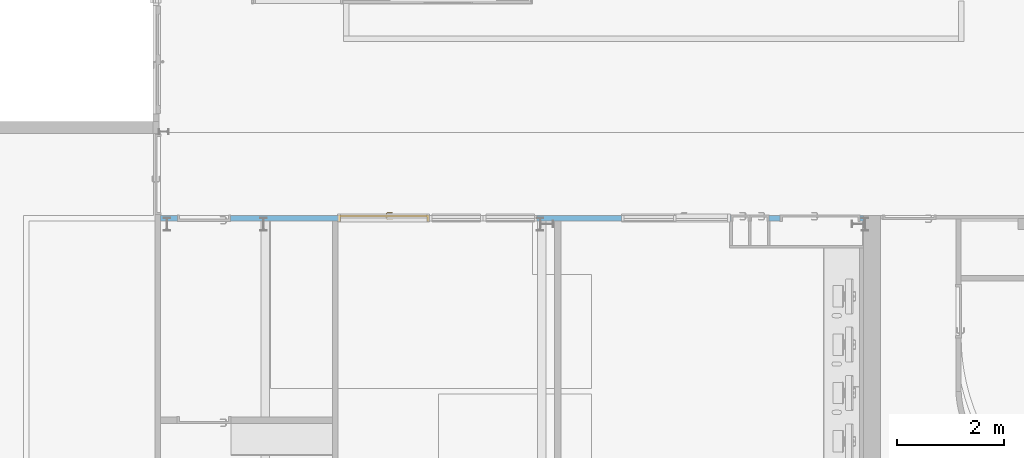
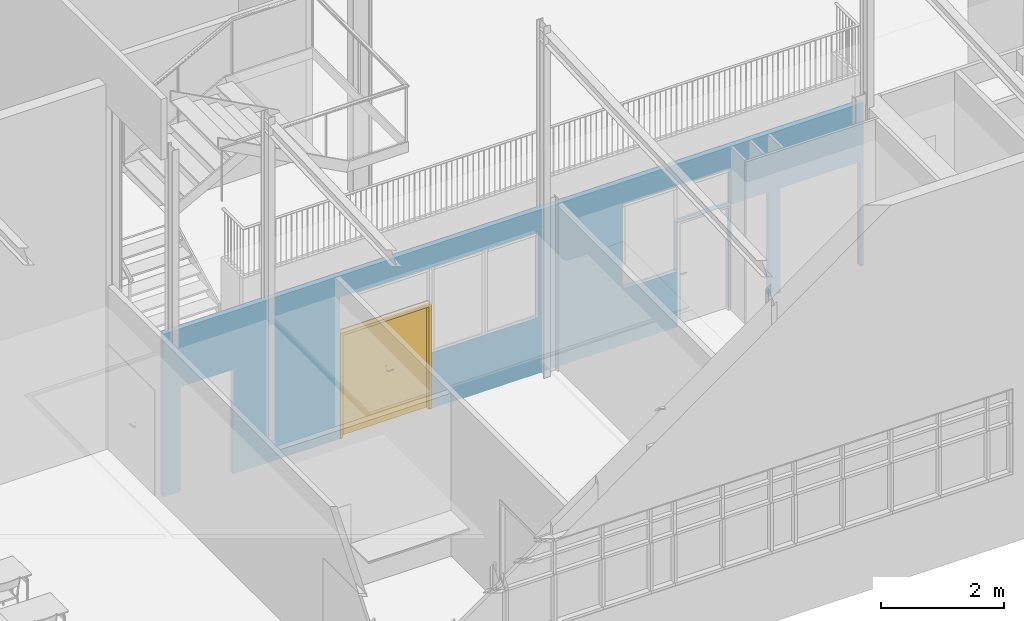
# One storey, part 81 of 137: 1 door, 10 openings, plus 1 element that does not belong to this part.
"""IFC2X3 building model written with IfcOpenShell, lengths in centimetres."""

from ifc_helpers import new_model, entity, si_unit, converted_unit, derived_unit, direction, frame, frame_2d, origin, place, context, subcontext, project, spatial, polyline, rectangle, outline, extrude, clip, bounded_halfspace, faceted_brep, source, transform, mapped, material, material_list, layer, layer_set, layer_usage, type_object, type_shapes, element, fill, save


model = new_model("IFC2X3")

# Units and contexts
model_context = context("Model", 3, precision=0.001, world=origin(), true_north=direction((6.12303176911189e-17, 1.0)))
body_context = subcontext(model_context, "Body", "Model", "MODEL_VIEW")
ifc_project = project(units=[si_unit("LENGTHUNIT", "METRE", prefix="CENTI"), si_unit("AREAUNIT", "SQUARE_METRE"), si_unit("VOLUMEUNIT", "CUBIC_METRE"), converted_unit("PLANEANGLEUNIT", "DEGREE", entity("IfcRatioMeasure", 0.0174532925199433), si_unit("PLANEANGLEUNIT", "RADIAN"), dimensions=[0, 0, 0, 0, 0, 0, 0]), si_unit("MASSUNIT", "GRAM", prefix="KILO"), si_unit("TIMEUNIT", "SECOND"), si_unit("FREQUENCYUNIT", "HERTZ"), si_unit("THERMODYNAMICTEMPERATUREUNIT", "DEGREE_CELSIUS"), derived_unit("THERMALTRANSMITTANCEUNIT", [(si_unit("MASSUNIT", "GRAM", prefix="KILO"), 1), (si_unit("THERMODYNAMICTEMPERATUREUNIT", "KELVIN"), -1), (si_unit("TIMEUNIT", "SECOND"), -3)]), derived_unit("VOLUMETRICFLOWRATEUNIT", [(si_unit("LENGTHUNIT", "METRE"), 3), (si_unit("TIMEUNIT", "SECOND"), -1)]), si_unit("ELECTRICCURRENTUNIT", "AMPERE"), si_unit("ELECTRICVOLTAGEUNIT", "VOLT"), si_unit("POWERUNIT", "WATT"), si_unit("FORCEUNIT", "NEWTON", prefix="KILO"), si_unit("ILLUMINANCEUNIT", "LUX"), si_unit("LUMINOUSFLUXUNIT", "LUMEN"), si_unit("LUMINOUSINTENSITYUNIT", "CANDELA"), derived_unit("USERDEFINED", [(si_unit("MASSUNIT", "GRAM", prefix="KILO"), -1), (si_unit("LENGTHUNIT", "METRE"), -2), (si_unit("TIMEUNIT", "SECOND"), 3), (si_unit("LUMINOUSFLUXUNIT", "LUMEN"), 1)]), derived_unit("LINEARVELOCITYUNIT", [(si_unit("LENGTHUNIT", "METRE"), 1), (si_unit("TIMEUNIT", "SECOND"), -1)]), si_unit("PRESSUREUNIT", "PASCAL"), derived_unit("USERDEFINED", [(si_unit("LENGTHUNIT", "METRE"), -2), (si_unit("MASSUNIT", "GRAM", prefix="KILO"), 1), (si_unit("TIMEUNIT", "SECOND"), -2)])], contexts=[model_context])

# Site, building, storey
site_placement = place(None, frame((8.62739174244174, -249.285249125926, 0.0)))
site = spatial("IfcSite", under=ifc_project, at=site_placement, Name="Default", CompositionType="ELEMENT")
building_placement = place(site_placement, origin())
building = spatial("IfcBuilding", under=site, at=building_placement, CompositionType="ELEMENT")
storey_placement = place(building_placement, origin())
storey = spatial("IfcBuildingStorey", under=building, at=storey_placement, Name="RDC", CompositionType="ELEMENT", Elevation=-8.82465566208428e-11)

# Wall, openings, door
ifc_material_1 = material(Name="Plâtre EXISTANT")
ifc_layer = layer(ifc_material_1, 10.0)
ifc_layer_set = layer_set([ifc_layer], Name="Mur de base:PLA EXISTANT 10")
ifc_layer_usage = layer_usage(ifc_layer_set, "AXIS2", "NEGATIVE", 5.0)
wall_type = type_object("IfcWallType", Name="Mur de base:PLA EXISTANT 10", PredefinedType="STANDARD", material=ifc_layer_set)
wall_placement = place(storey_placement, frame((2162.90482780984, 773.0, 0.0), z_axis=(0.0, 0.0, 1.0), x_axis=(-1.0, 0.0, 0.0)))
wall = element("IfcWallStandardCase", 1, at=wall_placement, inside=storey, type_object=wall_type, material=ifc_layer_usage, Name="Mur de base:PLA EXISTANT 10", ObjectType="Mur de base:PLA EXISTANT 10", context=body_context, shape_type="Clipping", body=[
    clip(extrude(rectangle(XDim=1308.9048278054, YDim=9.99999999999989, at=frame_2d((654.4524139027, -1.82076576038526e-14), x_axis=(-1.0, 0.0))), origin(), (0.0, 0.0, 1.0), 322.000000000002), bounded_halfspace(frame((0.0, -5.0, 322.0), z_axis=(0.0, 0.0, -1.0), x_axis=(1.0, 0.0, 0.0)), True, frame((0.0, -5.0, 322.0)), polyline([(0.0, 0.0), (1308.9048278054, 0.0), (1308.9048278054, 10.0), (988.9048278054, 10.0), (978.9048278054, 10.0), (574.90482780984, 10.0), (562.90482780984, 10.0), (249.0, 10.0), (244.0, 10.0), (214.0, 10.0), (209.0, 10.0), (179.0, 10.0), (174.0, 10.0), (0.0, 10.0), (0.0, 0.0)]))),
])
opening_1_placement = place(wall_placement, origin())
element("IfcOpeningElement", 2, at=opening_1_placement, cuts=wall, Name="Mur de base:PLA EXISTANT 10", ObjectType="Opening", context=body_context, shape_type="SweptSolid", body=[
    extrude(rectangle(XDim=72.9999999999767, YDim=171.0, at=frame_2d((0.0, 0.0), x_axis=(0.0, 1.0))), frame((893.500000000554, -20.2399999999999, 243.499999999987), z_axis=(0.0, 1.0, 0.0), x_axis=(-1.0, 0.0, 0.0)), (0.0, 0.0, 1.0), 40.48),
])
opening_2_placement = place(wall_placement, origin())
element("IfcOpeningElement", 3, at=opening_2_placement, cuts=wall, Name="Mur de base:PLA EXISTANT 10", ObjectType="Opening", context=body_context, shape_type="SweptSolid", body=[
    extrude(rectangle(XDim=170.0, YDim=100.0, at=frame_2d((0.0, -1.10134124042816e-13), x_axis=(1.0, 0.0))), frame((758.0, -20.2400000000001, 195.0), z_axis=(0.0, 1.0, 0.0), x_axis=(0.0, 0.0, 1.0)), (0.0, 0.0, 1.0), 40.48),
])
opening_3_placement = place(wall_placement, origin())
element("IfcOpeningElement", 4, at=opening_3_placement, cuts=wall, Name="Mur de base:PLA EXISTANT 10", ObjectType="Opening", context=body_context, shape_type="SweptSolid", body=[
    extrude(rectangle(XDim=170.0, YDim=100.0, at=frame_2d((0.0, -1.10134124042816e-13), x_axis=(1.0, 0.0))), frame((658.0, -20.2400000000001, 195.0), z_axis=(0.0, 1.0, 0.0), x_axis=(0.0, 0.0, 1.0)), (0.0, 0.0, 1.0), 40.48),
])
opening_4_placement = place(wall_placement, origin())
element("IfcOpeningElement", 5, at=opening_4_placement, cuts=wall, Name="Mur de base:PLA EXISTANT 10", ObjectType="Opening", context=body_context, shape_type="SweptSolid", body=[
    extrude(outline(polyline([(-101.666666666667, -89.3333333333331), (0.333333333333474, -89.3333333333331), (0.333333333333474, 8.66666666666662), (101.333333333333, 8.66666666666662), (101.333333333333, 80.6666666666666), (-101.666666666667, 80.6666666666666), (-101.666666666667, -89.3333333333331)])), frame((349.333333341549, -20.2400000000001, 199.333333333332), z_axis=(0.0, 1.0, 0.0), x_axis=(-1.0, 0.0, 0.0)), (0.0, 0.0, 1.0), 40.48),
])
opening_5_placement = place(wall_placement, frame((155.0, 5.0, 0.0)))
element("IfcOpeningElement", 6, at=opening_5_placement, cuts=wall, Name="Double(R)_bois_Existant_mu:143 x 204 cm:1", ObjectType="Opening", context=body_context, shape_type="SweptSolid", body=[
    extrude(rectangle(XDim=206.999999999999, YDim=149.0, at=frame_2d((103.499999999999, 74.5), x_axis=(1.0, 0.0))), frame((0.0, 0.0, 0.0), z_axis=(0.0, -1.0, 0.0), x_axis=(0.0, 0.0, 1.0)), (0.0, 0.0, 1.0), 10.0),
])
opening_6_placement = place(wall_placement, frame((978.0, 5.0, 0.0)))
opening_6 = element("IfcOpeningElement", 7, at=opening_6_placement, cuts=wall, Name="Double(R)_bois_Existant_mu:163 x 204 cm:1", ObjectType="Opening", context=body_context, shape_type="SweptSolid", body=[
    extrude(rectangle(XDim=206.999999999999, YDim=169.0, at=frame_2d((103.499999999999, 84.4999999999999), x_axis=(1.0, 0.0))), frame((0.0, 0.0, 0.0), z_axis=(0.0, -1.0, 0.0), x_axis=(0.0, 0.0, 1.0)), (0.0, 0.0, 1.0), 10.0),
])
opening_7_placement = place(wall_placement, frame((348.0, 5.0, 0.0)))
element("IfcOpeningElement", 8, at=opening_7_placement, cuts=wall, Name="Simple(R)_bois_Existant_mu:93 x 204 cm:1", ObjectType="Opening", context=body_context, shape_type="SweptSolid", body=[
    extrude(rectangle(XDim=206.999999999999, YDim=98.9999999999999, at=frame_2d((103.499999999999, 49.4999999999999), x_axis=(1.0, 0.0))), frame((0.0, 0.0, 0.0), z_axis=(0.0, -1.0, 0.0), x_axis=(0.0, 0.0, 1.0)), (0.0, 0.0, 1.0), 10.0),
])
opening_8_placement = place(wall_placement, frame((1178.49999999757, -5.0, 0.0)))
element("IfcOpeningElement", 9, at=opening_8_placement, cuts=wall, Name="Simple(R)_bois_Existant_mu:93 x 204 cm:1", ObjectType="Opening", context=body_context, shape_type="SweptSolid", body=[
    extrude(rectangle(XDim=206.999999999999, YDim=98.9999999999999, at=frame_2d((103.499999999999, 49.4999999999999), x_axis=(1.0, 0.0))), frame((0.0, 0.0, 0.0), z_axis=(0.0, 1.0, 0.0), x_axis=(0.0, 0.0, 1.0)), (0.0, 0.0, 1.0), 10.0),
])
opening_9_placement = place(wall_placement, frame((247.0, 5.0, 0.0)))
element("IfcOpeningElement", 10, at=opening_9_placement, cuts=wall, Name="Simple(R)_bois_Existant_mu:30 x 204 cm:1", ObjectType="Opening", context=body_context, shape_type="SweptSolid", body=[
    extrude(rectangle(XDim=206.999999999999, YDim=36.0, at=frame_2d((103.499999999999, 18.0000000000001), x_axis=(1.0, 0.0))), frame((0.0, 0.0, 0.0), z_axis=(0.0, -1.0, 0.0), x_axis=(0.0, 0.0, 1.0)), (0.0, 0.0, 1.0), 10.0),
])
opening_10_placement = place(wall_placement, frame((212.0, 5.0, 0.0)))
element("IfcOpeningElement", 11, at=opening_10_placement, cuts=wall, Name="Simple(R)_bois_Existant_mu:30 x 204 cm:1", ObjectType="Opening", context=body_context, shape_type="SweptSolid", body=[
    extrude(rectangle(XDim=206.999999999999, YDim=36.0, at=frame_2d((103.499999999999, 18.0000000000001), x_axis=(1.0, 0.0))), frame((0.0, 0.0, 0.0), z_axis=(0.0, -1.0, 0.0), x_axis=(0.0, 0.0, 1.0)), (0.0, 0.0, 1.0), 10.0),
])
ifc_material_2 = material(Name="Porte - Poignée")
ifc_material_3 = material(Name="Porte - Cadre")
ifc_material_4 = material(Name="Porte - Panneau")
ifc_material_list_1 = material_list([ifc_material_2, ifc_material_3, ifc_material_4])
ifc_material_list_2 = material_list([ifc_material_2, ifc_material_3, ifc_material_4])
door_style = type_object("IfcDoorStyle", Name="163 x 204 cm", ConstructionType="NOTDEFINED", OperationType="DOUBLE_DOOR_SINGLE_SWING", ParameterTakesPrecedence=False, Sizeable=False, material=ifc_material_list_2)
shared_shape = source(origin(), body_context, "Body", "Brep", [
    faceted_brep([(79.2025298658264, 3.69999999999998, 100.778044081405), (78.7974701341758, 3.69999999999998, 100.778044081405), (78.3999999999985, 3.69999999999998, 100.699999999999), (78.4000000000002, 3.69999999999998, 99.3000000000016), (78.7974701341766, 3.69999999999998, 99.2219559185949), (79.2025298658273, 3.69999999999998, 99.2219559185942), (79.6000000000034, 3.69999999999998, 99.2999999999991), (79.600000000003, 3.69999999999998, 100.699999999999), (78.3999999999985, 5.94852045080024, 100.699999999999), (78.3999999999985, 5.94852045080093, 99.3000000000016), (78.7974701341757, 6.1131579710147, 100.778044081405), (79.2025298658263, 6.2809392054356, 100.778044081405), (77.583890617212, 7.89957845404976, 100.778044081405), (77.4161093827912, 7.49451872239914, 100.778044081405), (69.0793122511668, 7.49451872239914, 100.778044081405), (68.9115310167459, 7.89957845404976, 100.778044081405), (68.145104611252, 7.13315204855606, 100.778044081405), (68.4315250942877, 6.84673156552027, 100.778044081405), (79.600000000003, 6.44557672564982, 100.699999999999), (79.6000000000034, 6.44557672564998, 99.2999999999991), (79.2025298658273, 6.28093920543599, 99.2219559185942), (78.7974701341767, 6.11315797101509, 99.2219559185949), (77.4161093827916, 7.49451872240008, 99.2219559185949), (77.5838906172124, 7.8995784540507, 99.2219559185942), (68.9115310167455, 7.8995784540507, 99.2219559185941), (69.0793122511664, 7.49451872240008, 99.2219559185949), (68.4315250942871, 6.84673156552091, 99.2219559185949), (68.1451046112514, 7.1331520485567, 99.2219559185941), (77.2514718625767, 7.09704858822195, 100.699999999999), (77.2514718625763, 7.09704858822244, 99.3000000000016), (77.7485281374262, 8.29704858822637, 100.699999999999), (77.7485281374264, 8.29704858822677, 99.2999999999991), (73.247710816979, 7.09704858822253, 100.699999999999), (69.2439497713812, 7.09704858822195, 100.699999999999), (69.2439497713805, 7.09704858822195, 99.3000000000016), (73.247710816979, 7.09704858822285, 99.3000000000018), (73.2477108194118, 7.71249275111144, 100.787811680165), (72.7399422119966, 8.29704858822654, 100.699999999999), (68.7468934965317, 8.29704858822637, 100.699999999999), (73.7554791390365, 8.29704858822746, 99.2999999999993), (68.7468934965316, 8.29704858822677, 99.2999999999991), (73.247710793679, 7.71249274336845, 99.2121883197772), (67.8640507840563, 7.41420587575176, 100.699999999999), (67.8640507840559, 7.41420587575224, 99.2999999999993), (68.7125789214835, 6.5656777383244, 99.3000000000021), (68.7125789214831, 6.56567773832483, 100.699999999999)], [[[0, 1, 2, 3, 4, 5, 6, 7]], [[8, 9, 3, 2]], [[1, 10, 8, 2]], [[1, 0, 11, 12, 13, 10]], [[14, 15, 16, 17]], [[7, 18, 11, 0]], [[18, 7, 6, 19]], [[6, 5, 20, 19]], [[5, 4, 21, 22, 23, 20]], [[24, 25, 26, 27]], [[4, 3, 9, 21]], [[28, 29, 9, 8]], [[8, 10, 13, 28]], [[18, 30, 12, 11]], [[31, 30, 18, 19]], [[19, 20, 23, 31]], [[21, 9, 29, 22]], [[29, 28, 32, 33, 34, 35]], [[36, 32, 13]], [[37, 38, 15]], [[37, 12, 30]], [[36, 12, 37]], [[14, 32, 36]], [[36, 15, 14]], [[28, 13, 32]], [[32, 14, 33]], [[12, 36, 13]], [[15, 36, 37]], [[30, 31, 39, 40, 38, 37]], [[23, 41, 39]], [[24, 39, 41]], [[39, 31, 23]], [[39, 24, 40]], [[22, 35, 41]], [[41, 23, 22]], [[41, 35, 25]], [[35, 22, 29]], [[34, 25, 35]], [[24, 41, 25]], [[17, 16, 42, 43, 27, 26, 44, 45]], [[45, 44, 34, 33]], [[33, 14, 17, 45]], [[15, 38, 42, 16]], [[43, 42, 38, 40]], [[24, 27, 43, 40]], [[34, 44, 26, 25]]]),
    faceted_brep([(78.7974701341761, -1.30000000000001, 100.778044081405), (79.2025298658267, -1.30000000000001, 100.778044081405), (79.6000000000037, -1.30000000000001, 100.699999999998), (79.6000000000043, -1.30000000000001, 99.2999999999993), (79.2025298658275, -1.30000000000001, 99.2219559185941), (78.7974701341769, -1.30000000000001, 99.2219559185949), (78.3999999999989, -1.30000000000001, 99.3000000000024), (78.3999999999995, -1.30000000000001, 100.699999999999), (79.2025298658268, -3.90045754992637, 100.778044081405), (79.6000000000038, -4.06509507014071, 100.699999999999), (78.7974701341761, -3.73267631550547, 100.778044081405), (77.4298602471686, -5.10028620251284, 100.778044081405), (77.5976414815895, -5.50534593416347, 100.778044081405), (68.9142453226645, -5.50534593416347, 100.778044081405), (69.0820265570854, -5.10028620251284, 100.778044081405), (68.4342394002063, -4.4524990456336, 100.778044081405), (68.1478189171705, -4.73891952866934, 100.778044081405), (78.3999999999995, -3.56803879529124, 100.699999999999), (78.3999999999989, -3.56803879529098, 99.3000000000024), (78.7974701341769, -3.7326763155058, 99.2219559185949), (79.2025298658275, -3.9004575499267, 99.2219559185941), (77.5976414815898, -5.50534593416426, 99.2219559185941), (77.429860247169, -5.10028620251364, 99.2219559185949), (69.0820265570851, -5.10028620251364, 99.2219559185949), (68.9142453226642, -5.50534593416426, 99.2219559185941), (68.14781891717, -4.73891952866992, 99.2219559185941), (68.4342394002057, -4.45249904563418, 99.2219559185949), (79.6000000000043, -4.06509507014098, 99.2999999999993), (77.762279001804, -5.90281606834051, 100.699999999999), (77.2652227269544, -4.70281606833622, 100.699999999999), (77.2652227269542, -4.70281606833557, 99.3000000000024), (77.7622790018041, -5.90281606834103, 99.2999999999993), (73.255943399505, -5.31828027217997, 100.787811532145), (73.7692302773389, -5.90281606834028, 100.699999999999), (68.7496078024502, -5.90281606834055, 100.699999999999), (73.2559434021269, -4.70281606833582, 100.699999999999), (69.2466640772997, -4.70281606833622, 100.699999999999), (73.2559436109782, -4.70281606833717, 99.3000000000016), (69.2466640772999, -4.70281606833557, 99.3000000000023), (73.2559434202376, -5.31828027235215, 99.2121884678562), (72.7426572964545, -5.90281606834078, 99.2999999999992), (68.7496078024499, -5.90281606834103, 99.2999999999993), (68.7152932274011, -4.17144521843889, 99.3000000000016), (67.8667650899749, -5.01997335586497, 99.2999999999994), (67.8667650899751, -5.01997335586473, 100.699999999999), (68.7152932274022, -4.17144521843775, 100.699999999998)], [[[0, 1, 2, 3, 4, 5, 6, 7]], [[2, 1, 8, 9]], [[1, 0, 10, 11, 12, 8]], [[13, 14, 15, 16]], [[0, 7, 17, 10]], [[18, 17, 7, 6]], [[5, 19, 18, 6]], [[5, 4, 20, 21, 22, 19]], [[23, 24, 25, 26]], [[3, 27, 20, 4]], [[9, 27, 3, 2]], [[9, 8, 12, 28]], [[10, 17, 29, 11]], [[30, 29, 17, 18]], [[18, 19, 22, 30]], [[20, 27, 31, 21]], [[28, 31, 27, 9]], [[12, 32, 33]], [[13, 33, 32]], [[33, 28, 12]], [[33, 13, 34]], [[11, 35, 32]], [[32, 12, 11]], [[32, 35, 14]], [[35, 11, 29]], [[36, 14, 35]], [[13, 32, 14]], [[29, 30, 37, 38, 36, 35]], [[39, 37, 22]], [[40, 41, 24]], [[40, 21, 31]], [[39, 21, 40]], [[23, 37, 39]], [[39, 24, 23]], [[30, 22, 37]], [[37, 23, 38]], [[21, 39, 22]], [[24, 39, 40]], [[31, 28, 33, 34, 41, 40]], [[42, 26, 25, 43, 44, 16, 15, 45]], [[13, 16, 44, 34]], [[36, 45, 15, 14]], [[42, 45, 36, 38]], [[38, 23, 26, 42]], [[24, 41, 43, 25]], [[44, 43, 41, 34]]]),
    faceted_brep([(79.0, 3.19999999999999, 86.4641016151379), (80.0352761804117, 3.19999999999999, 86.6003983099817), (81.0, 3.19999999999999, 87.0), (81.0, 3.19999999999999, 108.0), (80.0352761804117, 3.19999999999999, 108.399601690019), (79.0, 3.19999999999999, 108.535898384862), (77.9647238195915, 3.19999999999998, 108.399601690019), (77.0, 3.19999999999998, 108.0), (77.0, 3.19999999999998, 87.0), (77.9647238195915, 3.19999999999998, 86.6003983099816), (79.0, 3.69999999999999, 108.535898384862), (80.0352761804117, 3.69999999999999, 108.399601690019), (81.0, 3.69999999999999, 108.0), (81.0, 3.69999999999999, 87.0), (80.0352761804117, 3.69999999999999, 86.6003983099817), (79.0, 3.69999999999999, 86.4641016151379), (77.9647238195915, 3.69999999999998, 86.6003983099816), (77.0, 3.69999999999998, 87.0), (77.0, 3.69999999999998, 108.0), (77.9647238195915, 3.69999999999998, 108.399601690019)], [[[0, 1, 2, 3, 4, 5, 6, 7, 8, 9]], [[10, 11, 12, 13, 14, 15, 16, 17, 18, 19]], [[6, 19, 18, 7]], [[5, 10, 19, 6]], [[4, 11, 10, 5]], [[4, 3, 12, 11]], [[12, 3, 2, 13]], [[1, 14, 13, 2]], [[0, 15, 14, 1]], [[9, 16, 15, 0]], [[9, 8, 17, 16]], [[17, 8, 7, 18]]]),
    faceted_brep([(79.0, -1.30000000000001, 86.4641016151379), (80.0352761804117, -1.30000000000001, 86.6003983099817), (81.0, -1.3, 87.0), (81.0, -1.3, 108.0), (80.0352761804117, -1.30000000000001, 108.399601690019), (79.0, -1.30000000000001, 108.535898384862), (77.9647238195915, -1.30000000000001, 108.399601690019), (77.0, -1.30000000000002, 108.0), (77.0, -1.30000000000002, 87.0), (77.9647238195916, -1.30000000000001, 86.6003983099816), (81.0, -0.800000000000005, 108.0), (81.0, -0.800000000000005, 87.0), (80.0352761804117, -0.800000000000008, 86.6003983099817), (79.0, -0.800000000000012, 86.4641016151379), (77.9647238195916, -0.800000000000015, 86.6003983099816), (77.0, -0.800000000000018, 87.0), (77.0, -0.800000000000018, 108.0), (77.9647238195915, -0.800000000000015, 108.399601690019), (79.0, -0.800000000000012, 108.535898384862), (80.0352761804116, -0.800000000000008, 108.399601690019)], [[[0, 1, 2, 3, 4, 5, 6, 7, 8, 9]], [[10, 11, 12, 13, 14, 15, 16, 17, 18, 19]], [[1, 12, 11, 2]], [[0, 13, 12, 1]], [[9, 14, 13, 0]], [[9, 8, 15, 14]], [[15, 8, 7, 16]], [[6, 17, 16, 7]], [[5, 18, 17, 6]], [[4, 19, 18, 5]], [[4, 3, 10, 19]], [[10, 3, 2, 11]]]),
    faceted_brep([(169.0, 0.0, 0.0), (170.0, 0.0, 0.0), (170.0, -0.799999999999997, 0.0), (166.0, -0.799999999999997, 0.0), (166.0, 3.2, 0.0), (165.0, 3.2, 0.0), (165.0, 10.8000000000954, 0.0), (170.0, 10.8000000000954, 0.0), (170.0, 10.0, 0.0), (169.0, 10.0, 0.0), (169.0, 10.0, 207.0), (169.0, 0.0, 207.0), (170.0, 10.0, 208.0), (-1.0, 10.0, 208.0), (-1.0, 10.0, 0.0), (0.0, 10.0, 0.0), (0.0, 10.0, 207.0), (170.0, 10.8000000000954, 208.0), (165.0, 10.8000000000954, 203.0), (4.0, 10.8000000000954, 203.0), (4.0, 10.8000000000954, 0.0), (-1.0, 10.8000000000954, 0.0), (-1.0, 10.8000000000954, 208.0), (165.0, 3.2, 203.0), (166.0, 3.2, 204.0), (3.0, 3.2, 204.0), (3.0, 3.2, 0.0), (4.0, 3.2, 0.0), (4.0, 3.2, 203.0), (166.0, -0.799999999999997, 204.0), (170.0, -0.799999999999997, 208.0), (-1.0, -0.799999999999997, 208.0), (-1.0, -0.799999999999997, 0.0), (3.0, -0.799999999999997, 0.0), (3.0, -0.799999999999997, 204.0), (170.0, 0.0, 208.0), (0.0, 0.0, 207.0), (0.0, 0.0, 0.0), (-1.0, 0.0, 0.0), (-1.0, 0.0, 208.0)], [[[0, 1, 2, 3, 4, 5, 6, 7, 8, 9]], [[9, 10, 11, 0]], [[8, 12, 13, 14, 15, 16, 10, 9]], [[7, 17, 12, 8]], [[6, 18, 19, 20, 21, 22, 17, 7]], [[5, 23, 18, 6]], [[4, 24, 25, 26, 27, 28, 23, 5]], [[3, 29, 24, 4]], [[2, 30, 31, 32, 33, 34, 29, 3]], [[1, 35, 30, 2]], [[0, 11, 36, 37, 38, 39, 35, 1]], [[16, 15, 37, 36]], [[37, 15, 14, 21, 20, 27, 26, 33, 32, 38]], [[22, 21, 14, 13]], [[28, 27, 20, 19]], [[34, 33, 26, 25]], [[39, 38, 32, 31]], [[10, 16, 36, 11]], [[17, 22, 13, 12]], [[23, 28, 19, 18]], [[29, 34, 25, 24]], [[35, 39, 31, 30]]]),
    faceted_brep([(3.0, -0.799999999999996, 0.0), (84.5000000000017, -0.799999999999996, 0.0), (84.5000000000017, -0.799999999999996, 204.0), (3.0, -0.799999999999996, 204.0), (3.0, 3.2, 0.0), (3.0, 3.2, 204.0), (84.5000000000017, 3.2, 204.0), (84.5000000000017, 3.2, 0.0)], [[[0, 1, 2, 3]], [[4, 5, 6, 7]], [[3, 5, 4, 0]], [[2, 6, 5, 3]], [[1, 7, 6, 2]], [[0, 4, 7, 1]]]),
    faceted_brep([(166.0, -0.799999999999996, 204.0), (84.5000000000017, -0.799999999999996, 204.0), (84.5000000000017, -0.799999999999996, 0.0), (166.0, -0.799999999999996, 0.0), (166.0, 3.2, 204.0), (166.0, 3.2, 0.0), (84.5000000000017, 3.2, 0.0), (84.5000000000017, 3.2, 204.0)], [[[0, 1, 2, 3]], [[4, 5, 6, 7]], [[3, 5, 4, 0]], [[2, 6, 5, 3]], [[1, 7, 6, 2]], [[0, 4, 7, 1]]]),
])
type_shapes(door_style, [shared_shape])
door_placement = place(opening_6_placement, frame((-169.0, -10.0, 0.0)))
door = element("IfcDoor", 12, at=door_placement, inside=storey, type_object=door_style, material=ifc_material_list_1, Name="Double(R)_bois_Existant_mu:163 x 204 cm", ObjectType="163 x 204 cm", OverallHeight=206.999999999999, OverallWidth=169.0, context=body_context, shape_type="MappedRepresentation", body=[
    mapped(shared_shape, transform((0.0, 0.0, 0.0), scale=1.0)),
])
fill(opening_6, door)

save(model, "model.ifc")
